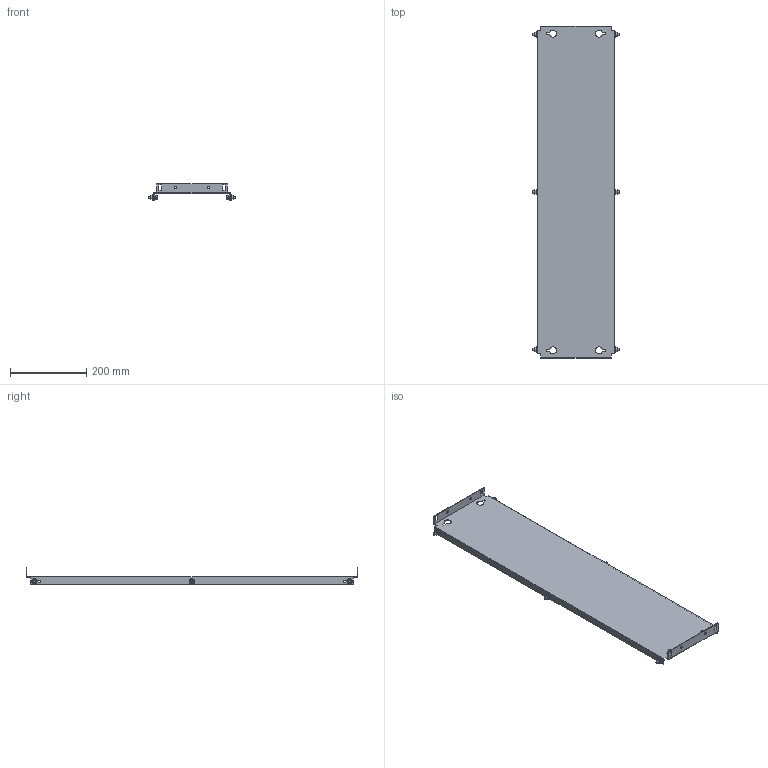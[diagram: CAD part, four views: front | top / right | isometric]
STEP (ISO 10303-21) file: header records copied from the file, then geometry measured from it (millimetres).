
FILE_DESCRIPTION(('Open CASCADE Model'),'2;1');
FILE_NAME('Open CASCADE Shape Model','2025-02-20T13:24:48',('Author'),( 'Open CASCADE'),'Open CASCADE STEP processor 7.8','Open CASCADE 7.8' ,'Unknown');
FILE_SCHEMA(('AUTOMOTIVE_DESIGN { 1 0 10303 214 1 1 1 1 }'));
Length unit declared in the file: millimetre
Products named in the file (4): Compound1; Solid1; Solid2; Solid3
Assembly tree (13 placements, depth 2):
  Compound1
    Solid1
    Solid2  x6
    Solid3  x6
Bounding box: 228 x 869 x 43 mm (x, y, z)
Volume: 427134.6 mm3; surface area: 431839.2 mm2
Topology: 13 solids, 13 shells, 420 faces, 1003 edges, 615 vertices
Faces by surface type: plane 192, cone 102, bspline 72, cylinder 36, torus 18
Full cylindrical faces by diameter (mm): 5 x6, 6 x12, 7 x14
Entity records: 4962 total; most frequent: CARTESIAN_POINT 1381, ORIENTED_EDGE 756, DIRECTION 650, EDGE_CURVE 378, VERTEX_POINT 245, AXIS2_PLACEMENT_3D 217, LINE 216, VECTOR 216
